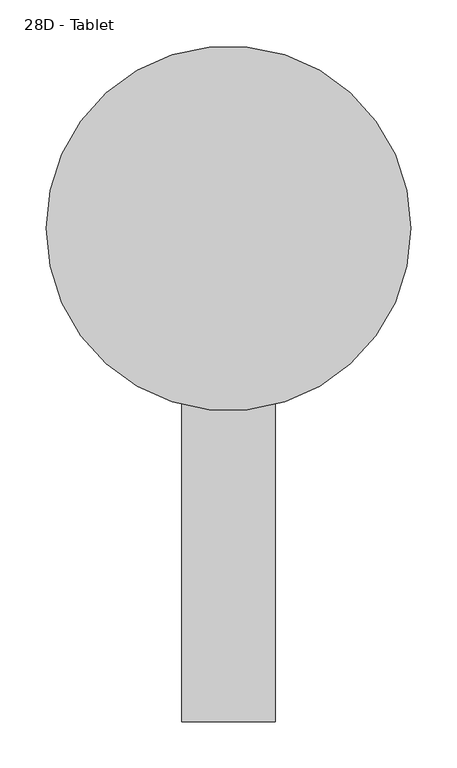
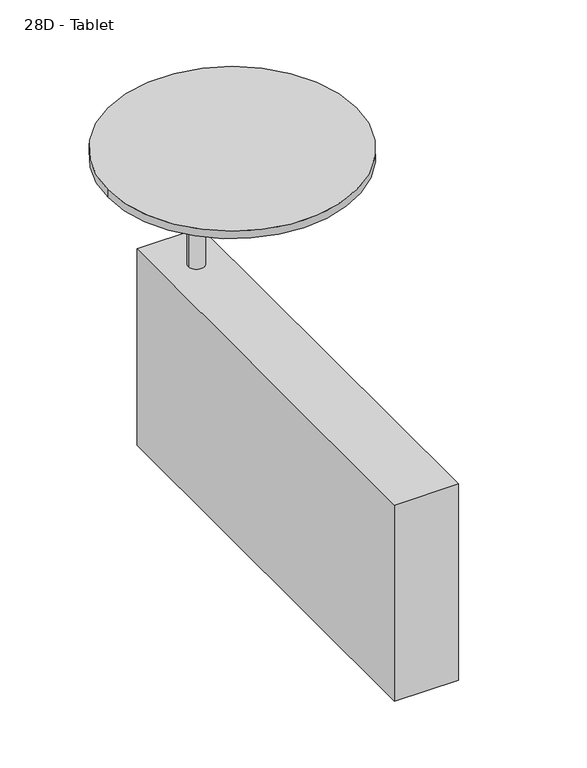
"""IFC4 building model written with IfcOpenShell, lengths in millimetres: furniture geometry, Steelcase Coalesse - Await - Table - Connector : 28D - Tablet."""

import ifcopenshell
import ifcopenshell.guid

model = None  # the IFC model being written
_history = None  # IfcOwnerHistory: only IFC2X3 demands one
_inside = {}  # id of a spatial element -> (the spatial element, [elements in it])
_under = {}  # id of a project, library or spatial element -> (it, [spatial elements below it])
_declared = {}  # id of a project -> (the project, [libraries it declares])
_typed = {}  # id of a type object -> (the type object, [elements of that type])
_made_of = {}  # id of a material, layer set ... -> (it, [elements and type objects made of it])


def new_model(schema):
    """Start an empty IFC model of exactly this schema.

    Asked for "IFC4X3", IfcOpenShell would pick the latest addendum, in which some entities
    have other attributes; the version numbers below select the first issue.
    IFC2X3 requires an IfcOwnerHistory on every rooted entity: one is made here for all.
    """
    global model, _history
    if schema == "IFC4X3":
        model = ifcopenshell.file(schema_version=(4, 3, 0, 0))
    else:
        model = ifcopenshell.file(schema=schema)
    _inside.clear()
    _under.clear()
    _declared.clear()
    _typed.clear()
    _made_of.clear()
    _history = None
    if model.schema == "IFC2X3":
        org = make("IfcOrganization", Name="unknown")
        user = make(
            "IfcPersonAndOrganization",
            ThePerson=make("IfcPerson", FamilyName="unknown"),
            TheOrganization=org,
        )
        app = make(
            "IfcApplication",
            ApplicationDeveloper=org,
            Version="unknown",
            ApplicationFullName="unknown",
            ApplicationIdentifier="unknown",
        )
        _history = make(
            "IfcOwnerHistory",
            OwningUser=user,
            OwningApplication=app,
            ChangeAction="ADDED",
            CreationDate=0,
        )
    return model


def make(cls, **values):
    """One entity of the class cls with the attributes given. An attribute that is None is left unset."""
    return model.create_entity(
        cls, **{name: value for name, value in values.items() if value is not None}
    )


def rooted(cls, **values):
    """An entity with a GlobalId (a new one), such as an element, a storey or a relation."""
    return make(cls, GlobalId=ifcopenshell.guid.new(), OwnerHistory=_history, **values)


def si_unit(unit_type, name, prefix=None):
    """IfcSIUnit, for example si_unit("LENGTHUNIT", "METRE", prefix="MILLI")."""
    return make("IfcSIUnit", UnitType=unit_type, Prefix=prefix, Name=name)


def assignment(units):
    """IfcUnitAssignment: the units of a project."""
    return None if units is None else make("IfcUnitAssignment", Units=units)


def point(xyz):
    """IfcCartesianPoint."""
    return None if xyz is None else make("IfcCartesianPoint", Coordinates=xyz)


def direction(xyz):
    """IfcDirection."""
    return None if xyz is None else make("IfcDirection", DirectionRatios=xyz)


def frame(location, z_axis=None, x_axis=None):
    """IfcAxis2Placement3D, a coordinate frame: its origin and axes. An axis left out is left unset."""
    return make(
        "IfcAxis2Placement3D",
        Location=point(location),
        Axis=direction(z_axis),
        RefDirection=direction(x_axis),
    )


def frame_2d(location, x_axis=None):
    """IfcAxis2Placement2D, a coordinate frame in the plane: its origin and x axis."""
    return make(
        "IfcAxis2Placement2D", Location=point(location), RefDirection=direction(x_axis)
    )


def origin():
    """The frame at (0, 0, 0) with its axes left unset."""
    return frame((0.0, 0.0, 0.0))


def place(relative_to, where):
    """IfcLocalPlacement: puts the frame where relative to a parent placement (None: the world)."""
    return make(
        "IfcLocalPlacement", PlacementRelTo=relative_to, RelativePlacement=where
    )


def context(
    kind, dimensions, precision=None, world=None, true_north=None, identifier=None
):
    """IfcGeometricRepresentationContext, for example the 3D "Model" context."""
    return make(
        "IfcGeometricRepresentationContext",
        ContextIdentifier=identifier,
        ContextType=kind,
        CoordinateSpaceDimension=dimensions,
        Precision=precision,
        WorldCoordinateSystem=world,
        TrueNorth=true_north,
    )


def project(units=None, contexts=None):
    """IfcProject with its units and contexts."""
    return rooted(
        "IfcProject",
        Name="project",
        RepresentationContexts=contexts,
        UnitsInContext=assignment(units),
    )


def spatial(cls, under=None, at=None, **own):
    """A site, building, storey or space (cls), placed at a placement, below another one or the project."""
    s = rooted(cls, ObjectPlacement=at, **own)
    if under is not None:
        _under.setdefault(under.id(), (under, []))[1].append(s)
    return s


def polyline(points):
    """IfcPolyline through the points."""
    return make("IfcPolyline", Points=[point(p) for p in points])


def circle_curve(where, radius):
    """IfcCircle in the frame where."""
    return make("IfcCircle", Position=where, Radius=radius)


def trimmed(basis, trim1, trim2, sense, master):
    """IfcTrimmedCurve: the piece of a basis curve between two trims."""
    return make(
        "IfcTrimmedCurve",
        BasisCurve=basis,
        Trim1=trim1,
        Trim2=trim2,
        SenseAgreement=sense,
        MasterRepresentation=master,
    )


def segment(curve, same_sense, transition):
    """IfcCompositeCurveSegment."""
    return make(
        "IfcCompositeCurveSegment",
        Transition=transition,
        SameSense=same_sense,
        ParentCurve=curve,
    )


def composite_curve(segments, self_intersect=None):
    """IfcCompositeCurve: segments joined end to end."""
    return make("IfcCompositeCurve", Segments=segments, SelfIntersect=self_intersect)


def outline(outer, holes=None, kind="AREA"):
    """IfcArbitraryClosedProfileDef: a profile drawn as a closed curve; with holes, ...WithVoids."""
    if holes is None:
        return make("IfcArbitraryClosedProfileDef", ProfileType=kind, OuterCurve=outer)
    return make(
        "IfcArbitraryProfileDefWithVoids",
        ProfileType=kind,
        OuterCurve=outer,
        InnerCurves=holes,
    )


def extrude(swept, where, along, depth):
    """IfcExtrudedAreaSolid: the profile swept, set in the frame where, extruded along a direction by depth."""
    return make(
        "IfcExtrudedAreaSolid",
        SweptArea=swept,
        Position=where,
        ExtrudedDirection=direction(along),
        Depth=depth,
    )


def shape(context_of_items, identifier, shape_type, items):
    """IfcShapeRepresentation: the items that make up one representation, for example the "Body"."""
    return make(
        "IfcShapeRepresentation",
        ContextOfItems=context_of_items,
        RepresentationIdentifier=identifier,
        RepresentationType=shape_type,
        Items=items,
    )


def source(mapping_origin, context_of_items, identifier, shape_type, items):
    """IfcRepresentationMap: a shape defined once, which mapped items show again and again."""
    return make(
        "IfcRepresentationMap",
        MappingOrigin=mapping_origin,
        MappedRepresentation=shape(context_of_items, identifier, shape_type, items),
    )


def transform(
    local_origin,
    x_axis=None,
    y_axis=None,
    z_axis=None,
    scale=None,
    scale2=None,
    scale3=None,
    uniform=True,
):
    """IfcCartesianTransformationOperator3D, or its non-uniform kind. x_axis, y_axis, z_axis: its Axis1, 2, 3."""
    if uniform:
        return make(
            "IfcCartesianTransformationOperator3D",
            Axis1=direction(x_axis),
            Axis2=direction(y_axis),
            LocalOrigin=point(local_origin),
            Scale=scale,
            Axis3=direction(z_axis),
        )
    return make(
        "IfcCartesianTransformationOperator3DnonUniform",
        Axis1=direction(x_axis),
        Axis2=direction(y_axis),
        LocalOrigin=point(local_origin),
        Scale=scale,
        Axis3=direction(z_axis),
        Scale2=scale2,
        Scale3=scale3,
    )


def mapped(mapping_source, mapping_target):
    """IfcMappedItem: shows the shape of a source again, moved by a transform."""
    return make(
        "IfcMappedItem", MappingSource=mapping_source, MappingTarget=mapping_target
    )


def made_of(thing, what):
    """Note that an element or type object is made of a material, layer set ...; save() writes the relation."""
    if what is not None:
        _made_of.setdefault(what.id(), (what, []))[1].append(thing)
    return thing


def element(
    cls,
    number,
    at=None,
    inside=None,
    cuts=None,
    type_object=None,
    material=None,
    context=None,
    identifier="Body",
    shape_type=None,
    held_by="IfcProductDefinitionShape",
    body=None,
    shapes=None,
    **own,
):
    """One element of the class cls, such as IfcWall. Its Tag is "e" and its number.

    at: its placement. inside: the storey or other place that contains it. cuts: it is an
    opening in that element (IfcRelVoidsElement). A single representation is given by context,
    identifier, shape_type and body (its items); several are given by shapes. held_by: the class
    of the entity that holds the representations. save() writes the other relations.
    """
    e = rooted(cls, Tag="e%d" % number, ObjectPlacement=at, **own)
    if body is not None:
        shapes = [shape(context, identifier, shape_type, body)]
    if shapes is not None:
        e.Representation = make(held_by, Representations=shapes)
    if inside is not None:
        _inside.setdefault(inside.id(), (inside, []))[1].append(e)
    if cuts is not None:
        rooted(
            "IfcRelVoidsElement", RelatingBuildingElement=cuts, RelatedOpeningElement=e
        )
    if type_object is not None:
        _typed.setdefault(type_object.id(), (type_object, []))[1].append(e)
    return made_of(e, material)


def aggregate(whole, parts):
    """IfcRelAggregates: a whole, such as a stair, and the parts it consists of."""
    return rooted("IfcRelAggregates", RelatingObject=whole, RelatedObjects=parts)


def save(model, path):
    """Write the relations noted so far, then the file.

    IfcRelAggregates (storeys below a building ...), IfcRelContainedInSpatialStructure (elements
    in a storey), IfcRelDefinesByType, IfcRelAssociatesMaterial and IfcRelDeclares: one each for
    every whole, place, type object, material and project.
    """
    for whole, parts in _under.values():
        aggregate(whole, parts)
    for where, things in _inside.values():
        rooted(
            "IfcRelContainedInSpatialStructure",
            RelatedElements=things,
            RelatingStructure=where,
        )
    for kind, things in _typed.values():
        rooted("IfcRelDefinesByType", RelatedObjects=things, RelatingType=kind)
    for what, things in _made_of.values():
        rooted("IfcRelAssociatesMaterial", RelatedObjects=things, RelatingMaterial=what)
    for by, libraries in _declared.values():
        rooted("IfcRelDeclares", RelatingContext=by, RelatedDefinitions=libraries)
    model.write(path)


def plane_surface(at):
    """IfcPlane: the flat surface through the origin of the frame at, square to its z axis."""
    return make("IfcPlane", Position=at)


def cylinder_surface(at, radius):
    """IfcCylindricalSurface: all points at the distance radius from the z axis of the frame at."""
    return make("IfcCylindricalSurface", Position=at, Radius=radius)


def advanced_brep(points, edges, surfaces, faces):
    """IfcAdvancedBrep: a solid bounded by faces that lie on surfaces and meet in shared edges.

    An edge is (start, end): straight between two places in points (the first is 0);
    or (start, end, curve); or (start, end, curve, False) where it runs against its curve.
    A face is (place in surfaces, loops), or (place, loops, False) where it looks against
    its surface's normal. A loop lists edges by number (the first is 1), with a minus sign
    where the edge is run from its end to its start. The first loop is the outer one.
    """
    corners = [point(p) for p in points]
    vertices = [make("IfcVertexPoint", VertexGeometry=c) for c in corners]
    made = []
    for start, end, *more in edges:
        made.append(
            make(
                "IfcEdgeCurve",
                EdgeStart=vertices[start],
                EdgeEnd=vertices[end],
                EdgeGeometry=more[0] if more else make("IfcPolyline", Points=[corners[start], corners[end]]),
                SameSense=more[1] if len(more) > 1 else True,
            )
        )
    hull = []
    for where, loops, *sense in faces:
        bounds = []
        for j, loop in enumerate(loops):
            ring = [make("IfcOrientedEdge", EdgeElement=made[abs(k) - 1], Orientation=k > 0) for k in loop]
            bounds.append(
                make(
                    "IfcFaceOuterBound" if j == 0 else "IfcFaceBound",
                    Bound=make("IfcEdgeLoop", EdgeList=ring),
                    Orientation=True,
                )
            )
        hull.append(make("IfcAdvancedFace", Bounds=bounds, FaceSurface=surfaces[where], SameSense=sense[0] if sense else True))
    return make("IfcAdvancedBrep", Outer=make("IfcClosedShell", CfsFaces=hull))


def furniture_28d_tablet_d484d864(model_context):
    return source(origin(), model_context, "Body", "SolidModel", [
        extrude(outline(composite_curve([segment(trimmed(circle_curve(frame_2d((-663.917922, 218.9143355)), 198.12), [point((-862.037922, 218.9143355))], [point((-465.797922, 218.9143355))], False, "CARTESIAN"), True, "CONTINUOUS"), segment(trimmed(circle_curve(frame_2d((-663.917922, 218.9143355)), 198.12), [point((-465.797922, 218.9143355))], [point((-862.037922, 218.9143355))], False, "CARTESIAN"), True, "CONTINUOUS")], self_intersect=False)), frame((0.0, 0.0, 631.825), z_axis=(0.0, 0.0, 1.0), x_axis=(1.0, 0.0, 0.0)), (0.0, 0.0, 1.0), 12.7),
        advanced_brep(
        [(-625.817922, 317.8403236, 631.825), (-702.017922, 317.8403236, 631.825), (-663.917922, 317.8403236, 631.825), (-625.817922, 317.8403236, 623.8875), (-702.017922, 317.8403236, 623.8875), (-651.217922, 317.8403236, 623.8875), (-676.617922, 317.8403236, 623.8875), (-651.217922, 317.8403236, 390.525), (-676.617922, 317.8403236, 390.525), (-663.917922, 317.8403236, 390.525)],
        [
            (0, 1, circle_curve(frame((-663.917922, 317.8403236, 631.825), z_axis=(0.0, 0.0, 1.0), x_axis=(-1.0, 0.0, 0.0)), 38.1)),
            (1, 2),
            (2, 0),
            (1, 0, circle_curve(frame((-663.917922, 317.8403236, 631.825), z_axis=(0.0, 0.0, 1.0), x_axis=(-1.0, 0.0, 0.0)), 38.1)),
            (3, 4, circle_curve(frame((-663.917922, 317.8403236, 623.8875), z_axis=(0.0, 0.0, 1.0), x_axis=(-1.0, 0.0, 0.0)), 38.1)),
            (4, 1),
            (0, 3),
            (4, 3, circle_curve(frame((-663.917922, 317.8403236, 623.8875), z_axis=(0.0, 0.0, 1.0), x_axis=(-1.0, 0.0, 0.0)), 38.1)),
            (5, 6, circle_curve(frame((-663.917922, 317.8403236, 623.8875), z_axis=(0.0, 0.0, 1.0), x_axis=(-1.0, 0.0, 0.0)), 12.7)),
            (6, 4),
            (3, 5),
            (6, 5, circle_curve(frame((-663.917922, 317.8403236, 623.8875), z_axis=(0.0, 0.0, 1.0), x_axis=(-1.0, 0.0, 0.0)), 12.7)),
            (7, 8, circle_curve(frame((-663.917922, 317.8403236, 390.525), z_axis=(0.0, 0.0, 1.0), x_axis=(-1.0, 0.0, 0.0)), 12.7)),
            (8, 6),
            (5, 7),
            (8, 7, circle_curve(frame((-663.917922, 317.8403236, 390.525), z_axis=(0.0, 0.0, 1.0), x_axis=(-1.0, 0.0, 0.0)), 12.7)),
            (9, 8),
            (7, 9),
        ],
        [
            plane_surface(frame((-663.917922, 317.8403236, 631.825), z_axis=(0.0, 0.0, 1.0), x_axis=(-1.0, 0.0, 0.0))),
            cylinder_surface(frame((-663.917922, 317.8403236, 631.825), z_axis=(0.0, 0.0, -1.0), x_axis=(-1.0, 0.0, 0.0)), 38.1),
            plane_surface(frame((-663.917922, 317.8403236, 623.8875), z_axis=(0.0, 0.0, -1.0), x_axis=(-1.0, 0.0, 0.0))),
            cylinder_surface(frame((-663.917922, 317.8403236, 631.825), z_axis=(0.0, 0.0, -1.0), x_axis=(-1.0, 0.0, 0.0)), 12.7),
            plane_surface(frame((-663.917922, 317.8403236, 390.525), z_axis=(0.0, 0.0, -1.0), x_axis=(-1.0, 0.0, 0.0))),
        ],
        [
            (0, [[1, 2, 3]]),
            (0, [[4, -3, -2]]),
            (1, [[5, 6, -1, 7]]),
            (1, [[8, -7, -4, -6]]),
            (2, [[9, 10, -5, 11]]),
            (2, [[12, -11, -8, -10]]),
            (3, [[13, 14, -9, 15]]),
            (3, [[16, -15, -12, -14]]),
            (4, [[17, -13, 18]]),
            (4, [[-18, -16, -17]]),
        ],
    ),
        extrude(outline(polyline([(-613.117922, 394.0403236), (-613.117922, -317.1596764), (-714.717922, -317.1596764), (-714.717922, 394.0403236), (-613.117922, 394.0403236)])), frame((0.0, 0.0, 57.15), z_axis=(0.0, 0.0, 1.0), x_axis=(1.0, 0.0, 0.0)), (0.0, 0.0, 1.0), 330.2),
    ])


if __name__ == "__main__":
    model = new_model("IFC4")
    model_context = context("Model", 3, world=origin())
    ifc_project = project(units=[si_unit("LENGTHUNIT", "METRE", prefix="MILLI")], contexts=[model_context])
    site = spatial("IfcSite", under=ifc_project)
    building = spatial("IfcBuilding", under=site)
    placement = place(None, origin())
    furniture_28d_tablet_shape = furniture_28d_tablet_d484d864(model_context)
    element("IfcFurniture", 1, ObjectType="Steelcase Coalesse - Await - Table - Connector : 28D - Tablet", at=placement, inside=building, context=model_context, shape_type="MappedRepresentation", body=[
        mapped(furniture_28d_tablet_shape, transform((0.0, 0.0, 0.0), x_axis=(1.0, 0.0, 0.0), y_axis=(0.0, 1.0, 0.0), z_axis=(0.0, 0.0, 1.0))),
    ])
    save(model, "model.ifc")
